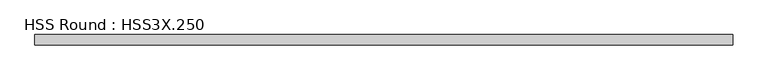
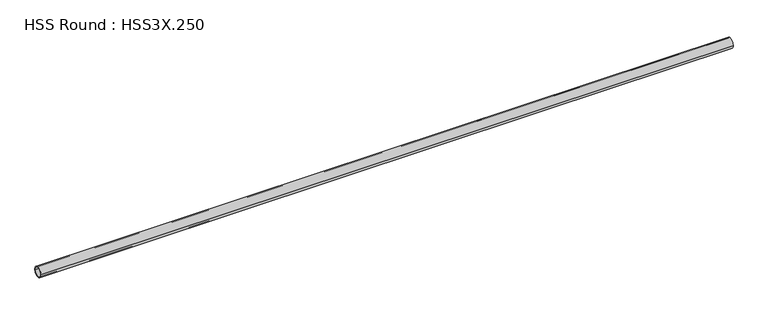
"""IFC4 building model written with IfcOpenShell, lengths in millimetres: member geometry, HSS Round : HSS3X.250."""

import ifcopenshell
import ifcopenshell.guid

model = None  # the IFC model being written
_history = None  # IfcOwnerHistory: only IFC2X3 demands one
_inside = {}  # id of a spatial element -> (the spatial element, [elements in it])
_under = {}  # id of a project, library or spatial element -> (it, [spatial elements below it])
_declared = {}  # id of a project -> (the project, [libraries it declares])
_typed = {}  # id of a type object -> (the type object, [elements of that type])
_made_of = {}  # id of a material, layer set ... -> (it, [elements and type objects made of it])


def new_model(schema):
    """Start an empty IFC model of exactly this schema.

    Asked for "IFC4X3", IfcOpenShell would pick the latest addendum, in which some entities
    have other attributes; the version numbers below select the first issue.
    IFC2X3 requires an IfcOwnerHistory on every rooted entity: one is made here for all.
    """
    global model, _history
    if schema == "IFC4X3":
        model = ifcopenshell.file(schema_version=(4, 3, 0, 0))
    else:
        model = ifcopenshell.file(schema=schema)
    _inside.clear()
    _under.clear()
    _declared.clear()
    _typed.clear()
    _made_of.clear()
    _history = None
    if model.schema == "IFC2X3":
        org = make("IfcOrganization", Name="unknown")
        user = make(
            "IfcPersonAndOrganization",
            ThePerson=make("IfcPerson", FamilyName="unknown"),
            TheOrganization=org,
        )
        app = make(
            "IfcApplication",
            ApplicationDeveloper=org,
            Version="unknown",
            ApplicationFullName="unknown",
            ApplicationIdentifier="unknown",
        )
        _history = make(
            "IfcOwnerHistory",
            OwningUser=user,
            OwningApplication=app,
            ChangeAction="ADDED",
            CreationDate=0,
        )
    return model


def make(cls, **values):
    """One entity of the class cls with the attributes given. An attribute that is None is left unset."""
    return model.create_entity(
        cls, **{name: value for name, value in values.items() if value is not None}
    )


def rooted(cls, **values):
    """An entity with a GlobalId (a new one), such as an element, a storey or a relation."""
    return make(cls, GlobalId=ifcopenshell.guid.new(), OwnerHistory=_history, **values)


def si_unit(unit_type, name, prefix=None):
    """IfcSIUnit, for example si_unit("LENGTHUNIT", "METRE", prefix="MILLI")."""
    return make("IfcSIUnit", UnitType=unit_type, Prefix=prefix, Name=name)


def assignment(units):
    """IfcUnitAssignment: the units of a project."""
    return None if units is None else make("IfcUnitAssignment", Units=units)


def point(xyz):
    """IfcCartesianPoint."""
    return None if xyz is None else make("IfcCartesianPoint", Coordinates=xyz)


def direction(xyz):
    """IfcDirection."""
    return None if xyz is None else make("IfcDirection", DirectionRatios=xyz)


def frame(location, z_axis=None, x_axis=None):
    """IfcAxis2Placement3D, a coordinate frame: its origin and axes. An axis left out is left unset."""
    return make(
        "IfcAxis2Placement3D",
        Location=point(location),
        Axis=direction(z_axis),
        RefDirection=direction(x_axis),
    )


def frame_2d(location, x_axis=None):
    """IfcAxis2Placement2D, a coordinate frame in the plane: its origin and x axis."""
    return make(
        "IfcAxis2Placement2D", Location=point(location), RefDirection=direction(x_axis)
    )


def origin():
    """The frame at (0, 0, 0) with its axes left unset."""
    return frame((0.0, 0.0, 0.0))


def origin_2d():
    """The frame at (0, 0) in the plane with its x axis left unset."""
    return frame_2d((0.0, 0.0))


def place(relative_to, where):
    """IfcLocalPlacement: puts the frame where relative to a parent placement (None: the world)."""
    return make(
        "IfcLocalPlacement", PlacementRelTo=relative_to, RelativePlacement=where
    )


def context(
    kind, dimensions, precision=None, world=None, true_north=None, identifier=None
):
    """IfcGeometricRepresentationContext, for example the 3D "Model" context."""
    return make(
        "IfcGeometricRepresentationContext",
        ContextIdentifier=identifier,
        ContextType=kind,
        CoordinateSpaceDimension=dimensions,
        Precision=precision,
        WorldCoordinateSystem=world,
        TrueNorth=true_north,
    )


def project(units=None, contexts=None):
    """IfcProject with its units and contexts."""
    return rooted(
        "IfcProject",
        Name="project",
        RepresentationContexts=contexts,
        UnitsInContext=assignment(units),
    )


def spatial(cls, under=None, at=None, **own):
    """A site, building, storey or space (cls), placed at a placement, below another one or the project."""
    s = rooted(cls, ObjectPlacement=at, **own)
    if under is not None:
        _under.setdefault(under.id(), (under, []))[1].append(s)
    return s


def circle_curve(where, radius):
    """IfcCircle in the frame where."""
    return make("IfcCircle", Position=where, Radius=radius)


def trimmed(basis, trim1, trim2, sense, master):
    """IfcTrimmedCurve: the piece of a basis curve between two trims."""
    return make(
        "IfcTrimmedCurve",
        BasisCurve=basis,
        Trim1=trim1,
        Trim2=trim2,
        SenseAgreement=sense,
        MasterRepresentation=master,
    )


def segment(curve, same_sense, transition):
    """IfcCompositeCurveSegment."""
    return make(
        "IfcCompositeCurveSegment",
        Transition=transition,
        SameSense=same_sense,
        ParentCurve=curve,
    )


def composite_curve(segments, self_intersect=None):
    """IfcCompositeCurve: segments joined end to end."""
    return make("IfcCompositeCurve", Segments=segments, SelfIntersect=self_intersect)


def outline(outer, holes=None, kind="AREA"):
    """IfcArbitraryClosedProfileDef: a profile drawn as a closed curve; with holes, ...WithVoids."""
    if holes is None:
        return make("IfcArbitraryClosedProfileDef", ProfileType=kind, OuterCurve=outer)
    return make(
        "IfcArbitraryProfileDefWithVoids",
        ProfileType=kind,
        OuterCurve=outer,
        InnerCurves=holes,
    )


def extrude(swept, where, along, depth):
    """IfcExtrudedAreaSolid: the profile swept, set in the frame where, extruded along a direction by depth."""
    return make(
        "IfcExtrudedAreaSolid",
        SweptArea=swept,
        Position=where,
        ExtrudedDirection=direction(along),
        Depth=depth,
    )


def shape(context_of_items, identifier, shape_type, items):
    """IfcShapeRepresentation: the items that make up one representation, for example the "Body"."""
    return make(
        "IfcShapeRepresentation",
        ContextOfItems=context_of_items,
        RepresentationIdentifier=identifier,
        RepresentationType=shape_type,
        Items=items,
    )


def source(mapping_origin, context_of_items, identifier, shape_type, items):
    """IfcRepresentationMap: a shape defined once, which mapped items show again and again."""
    return make(
        "IfcRepresentationMap",
        MappingOrigin=mapping_origin,
        MappedRepresentation=shape(context_of_items, identifier, shape_type, items),
    )


def transform(
    local_origin,
    x_axis=None,
    y_axis=None,
    z_axis=None,
    scale=None,
    scale2=None,
    scale3=None,
    uniform=True,
):
    """IfcCartesianTransformationOperator3D, or its non-uniform kind. x_axis, y_axis, z_axis: its Axis1, 2, 3."""
    if uniform:
        return make(
            "IfcCartesianTransformationOperator3D",
            Axis1=direction(x_axis),
            Axis2=direction(y_axis),
            LocalOrigin=point(local_origin),
            Scale=scale,
            Axis3=direction(z_axis),
        )
    return make(
        "IfcCartesianTransformationOperator3DnonUniform",
        Axis1=direction(x_axis),
        Axis2=direction(y_axis),
        LocalOrigin=point(local_origin),
        Scale=scale,
        Axis3=direction(z_axis),
        Scale2=scale2,
        Scale3=scale3,
    )


def mapped(mapping_source, mapping_target):
    """IfcMappedItem: shows the shape of a source again, moved by a transform."""
    return make(
        "IfcMappedItem", MappingSource=mapping_source, MappingTarget=mapping_target
    )


def made_of(thing, what):
    """Note that an element or type object is made of a material, layer set ...; save() writes the relation."""
    if what is not None:
        _made_of.setdefault(what.id(), (what, []))[1].append(thing)
    return thing


def element(
    cls,
    number,
    at=None,
    inside=None,
    cuts=None,
    type_object=None,
    material=None,
    context=None,
    identifier="Body",
    shape_type=None,
    held_by="IfcProductDefinitionShape",
    body=None,
    shapes=None,
    **own,
):
    """One element of the class cls, such as IfcWall. Its Tag is "e" and its number.

    at: its placement. inside: the storey or other place that contains it. cuts: it is an
    opening in that element (IfcRelVoidsElement). A single representation is given by context,
    identifier, shape_type and body (its items); several are given by shapes. held_by: the class
    of the entity that holds the representations. save() writes the other relations.
    """
    e = rooted(cls, Tag="e%d" % number, ObjectPlacement=at, **own)
    if body is not None:
        shapes = [shape(context, identifier, shape_type, body)]
    if shapes is not None:
        e.Representation = make(held_by, Representations=shapes)
    if inside is not None:
        _inside.setdefault(inside.id(), (inside, []))[1].append(e)
    if cuts is not None:
        rooted(
            "IfcRelVoidsElement", RelatingBuildingElement=cuts, RelatedOpeningElement=e
        )
    if type_object is not None:
        _typed.setdefault(type_object.id(), (type_object, []))[1].append(e)
    return made_of(e, material)


def aggregate(whole, parts):
    """IfcRelAggregates: a whole, such as a stair, and the parts it consists of."""
    return rooted("IfcRelAggregates", RelatingObject=whole, RelatedObjects=parts)


def save(model, path):
    """Write the relations noted so far, then the file.

    IfcRelAggregates (storeys below a building ...), IfcRelContainedInSpatialStructure (elements
    in a storey), IfcRelDefinesByType, IfcRelAssociatesMaterial and IfcRelDeclares: one each for
    every whole, place, type object, material and project.
    """
    for whole, parts in _under.values():
        aggregate(whole, parts)
    for where, things in _inside.values():
        rooted(
            "IfcRelContainedInSpatialStructure",
            RelatedElements=things,
            RelatingStructure=where,
        )
    for kind, things in _typed.values():
        rooted("IfcRelDefinesByType", RelatedObjects=things, RelatingType=kind)
    for what, things in _made_of.values():
        rooted("IfcRelAssociatesMaterial", RelatedObjects=things, RelatingMaterial=what)
    for by, libraries in _declared.values():
        rooted("IfcRelDeclares", RelatingContext=by, RelatedDefinitions=libraries)
    model.write(path)


def hss_round_hss3x_250_128aa239(model_context):
    return source(origin(), model_context, "Body", "SweptSolid", [
        extrude(outline(composite_curve([segment(trimmed(circle_curve(origin_2d(), 38.1), [point((-38.1, 0.0))], [point((38.1, 0.0))], False, "CARTESIAN"), True, "CONTINUOUS"), segment(trimmed(circle_curve(origin_2d(), 38.1), [point((38.1, 0.0))], [point((-38.1, 0.0))], False, "CARTESIAN"), True, "CONTINUOUS")], self_intersect=False), holes=[composite_curve([segment(trimmed(circle_curve(origin_2d(), 31.75), [point((31.75, 0.0))], [point((-31.75, 0.0))], True, "CARTESIAN"), True, "CONTINUOUS"), segment(trimmed(circle_curve(origin_2d(), 31.75), [point((-31.75, 0.0))], [point((31.75, 0.0))], True, "CARTESIAN"), True, "CONTINUOUS")], self_intersect=False)]), frame((-2635.7306021, 0.0, 0.0), z_axis=(1.0, 0.0, 0.0), x_axis=(0.0, 1.0, 0.0)), (0.0, 0.0, 1.0), 5123.9156244),
    ])


if __name__ == "__main__":
    model = new_model("IFC4")
    model_context = context("Model", 3, world=origin())
    ifc_project = project(units=[si_unit("LENGTHUNIT", "METRE", prefix="MILLI")], contexts=[model_context])
    site = spatial("IfcSite", under=ifc_project)
    building = spatial("IfcBuilding", under=site)
    placement = place(None, origin())
    hss_round_hss3x_250_shape = hss_round_hss3x_250_128aa239(model_context)
    element("IfcMember", 1, ObjectType="HSS Round : HSS3X.250", at=placement, inside=building, context=model_context, shape_type="MappedRepresentation", body=[
        mapped(hss_round_hss3x_250_shape, transform((0.0, 0.0, 0.0), x_axis=(1.0, 0.0, 0.0), y_axis=(0.0, 1.0, 0.0), z_axis=(0.0, 0.0, 1.0))),
    ])
    save(model, "model.ifc")
